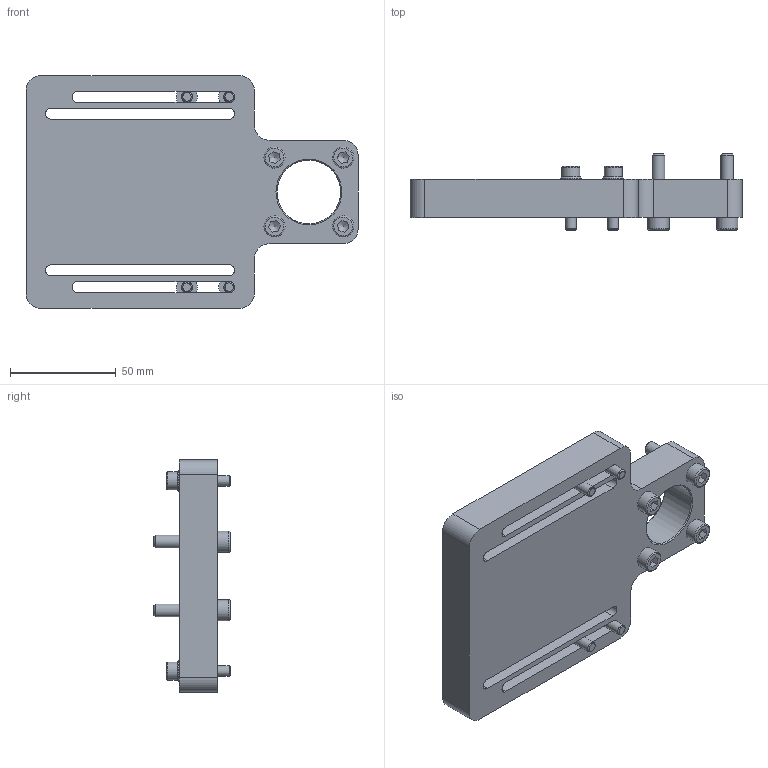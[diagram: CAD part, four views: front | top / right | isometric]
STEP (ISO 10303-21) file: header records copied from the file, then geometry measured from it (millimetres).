
FILE_DESCRIPTION(/* description */ ('Outrigger Plate ETH032 direct mounting '),/* implementation_level */ '2;1');
FILE_NAME(/* name */ 'D:\InventorWorkspace2017\CAD\Projekte_EDEM\HLR\Zubehörteile\0232.034-01.stp',/* time_stamp */ '2019-02-13T13:18:19+01:00',/* author */ ('544672'),/* organization */ (''),/* preprocessor_version */ 'ST-DEVELOPER v16.5',/* originating_system */ 'Autodesk Inventor 2017',/* authorisation */ '');
FILE_SCHEMA (('AUTOMOTIVE_DESIGN { 1 0 10303 214 3 1 1 }'));
Length unit declared in the file: millimetre
Products named in the file (5): 0232.034-01; 0231.026; 135-721046; 135-721033; 135-728812
Assembly tree (13 placements, depth 2):
  0232.034-01
    0231.026
    135-721046  x4
    135-721033  x4
    135-728812  x4
Bounding box: 157 x 36 x 110 mm (x, y, z)
Volume: 218359.8 mm3; surface area: 55172.5 mm2
Topology: 13 solids, 13 shells, 181 faces, 408 edges, 261 vertices
Faces by surface type: plane 98, cylinder 45, cone 22, torus 16
Full cylindrical faces by diameter (mm): 5 x4, 5.3 x4, 6 x4, 6.6 x4, 8.5 x4, 10 x8, 30.1 x1
Entity records: 2383 total; most frequent: DIRECTION 402, CARTESIAN_POINT 400, ORIENTED_EDGE 326, EDGE_CURVE 163, AXIS2_PLACEMENT_3D 157, EDGE_LOOP 120, VERTEX_POINT 119, LINE 88
